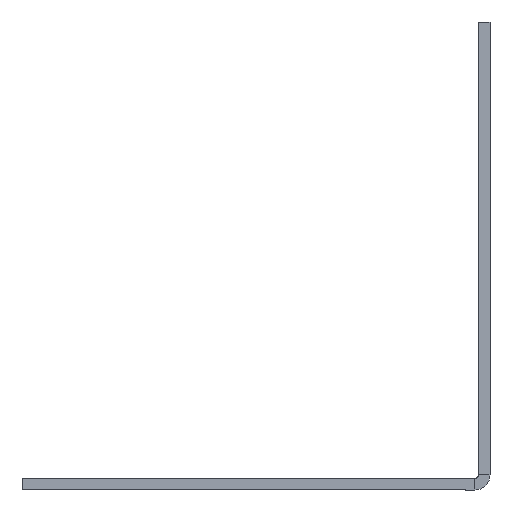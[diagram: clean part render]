
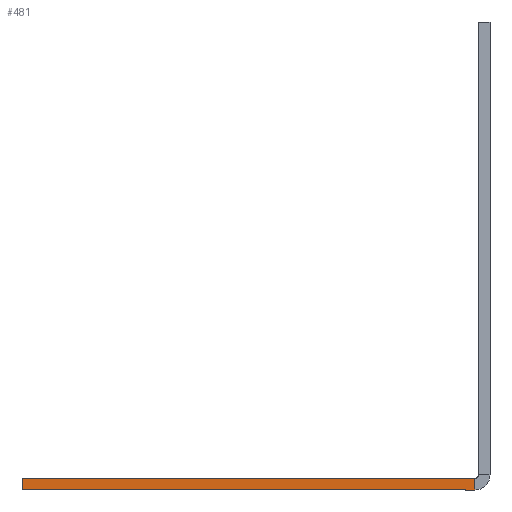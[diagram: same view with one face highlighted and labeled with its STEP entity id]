
A CAD part, left-side view. The second image highlights one B-rep face of the part: STEP entity #481.
In plain terms, the highlighted planar face has unit normal (-1, 0, 0).
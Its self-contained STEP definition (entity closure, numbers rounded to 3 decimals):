
#9 = DIRECTION ( 'NONE',  ( 0., -1., 0. ) ) ;
#14 = LINE ( 'NONE', #1749, #2113 ) ;
#54 = CARTESIAN_POINT ( 'NONE',  ( 0., 97.962, -100.462 ) ) ;
#134 = CARTESIAN_POINT ( 'NONE',  ( 0., -98.038, -100.462 ) ) ;
#199 = VECTOR ( 'NONE', #303, 1000. ) ;
#214 = CARTESIAN_POINT ( 'NONE',  ( 0., -98.038, -97.962 ) ) ;
#216 = CARTESIAN_POINT ( 'NONE',  ( 0., 0.737, -100.462 ) ) ;
#240 = EDGE_LOOP ( 'NONE', ( #2576, #1003, #1986, #486 ) ) ;
#303 = DIRECTION ( 'NONE',  ( 0., -1., 0. ) ) ;
#308 = EDGE_CURVE ( 'NONE', #1460, #2146, #14, .T. ) ;
#378 = AXIS2_PLACEMENT_3D ( 'NONE', #134, #2436, #2601 ) ;
#481 = ADVANCED_FACE ( 'NONE', ( #2080 ), #786, .T. ) ;
#486 = ORIENTED_EDGE ( 'NONE', *, *, #902, .T. ) ;
#538 = DIRECTION ( 'NONE',  ( 0., 0., -1. ) ) ;
#548 = CARTESIAN_POINT ( 'NONE',  ( 0., 0.737, -97.962 ) ) ;
#623 = VECTOR ( 'NONE', #677, 1000. ) ;
#665 = VERTEX_POINT ( 'NONE', #859 ) ;
#677 = DIRECTION ( 'NONE',  ( 0., 0., 1. ) ) ;
#786 = PLANE ( 'NONE',  #378 ) ;
#859 = CARTESIAN_POINT ( 'NONE',  ( 0., 97.962, -100.462 ) ) ;
#902 = EDGE_CURVE ( 'NONE', #665, #2146, #903, .T. ) ;
#903 = LINE ( 'NONE', #1112, #199 ) ;
#908 = VECTOR ( 'NONE', #9, 1000. ) ;
#1003 = ORIENTED_EDGE ( 'NONE', *, *, #1199, .F. ) ;
#1112 = CARTESIAN_POINT ( 'NONE',  ( 0., -98.038, -100.462 ) ) ;
#1199 = EDGE_CURVE ( 'NONE', #2252, #1460, #2154, .T. ) ;
#1264 = EDGE_CURVE ( 'NONE', #665, #2252, #2359, .T. ) ;
#1460 = VERTEX_POINT ( 'NONE', #548 ) ;
#1749 = CARTESIAN_POINT ( 'NONE',  ( 0., 0.737, -100.462 ) ) ;
#1986 = ORIENTED_EDGE ( 'NONE', *, *, #1264, .F. ) ;
#2080 = FACE_OUTER_BOUND ( 'NONE', #240, .T. ) ;
#2113 = VECTOR ( 'NONE', #538, 1000. ) ;
#2146 = VERTEX_POINT ( 'NONE', #216 ) ;
#2154 = LINE ( 'NONE', #214, #908 ) ;
#2233 = CARTESIAN_POINT ( 'NONE',  ( 0., 97.962, -97.962 ) ) ;
#2252 = VERTEX_POINT ( 'NONE', #2233 ) ;
#2359 = LINE ( 'NONE', #54, #623 ) ;
#2436 = DIRECTION ( 'NONE',  ( -1., 0., 0. ) ) ;
#2576 = ORIENTED_EDGE ( 'NONE', *, *, #308, .F. ) ;
#2601 = DIRECTION ( 'NONE',  ( 0., -1., 0. ) ) ;
